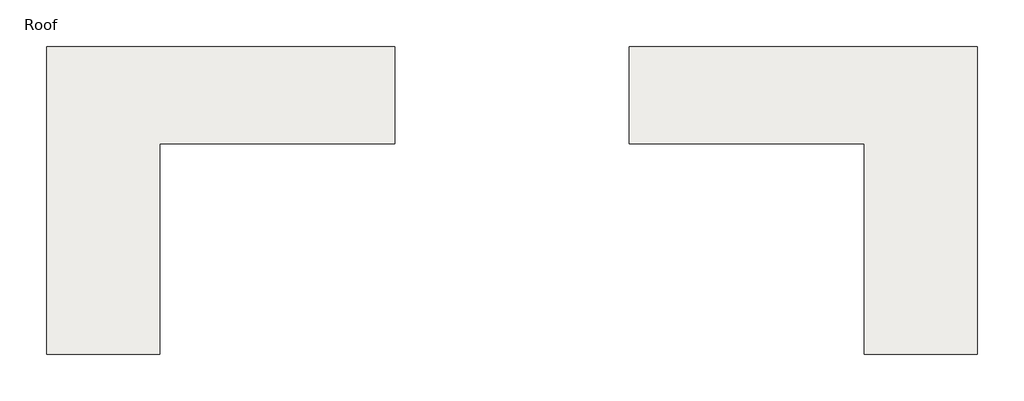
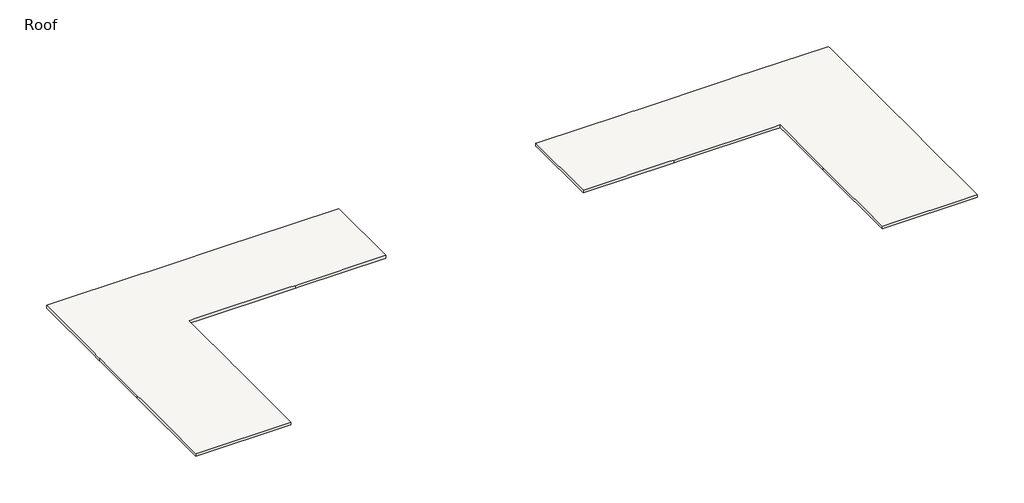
# One storey: 2 slabs.
"""IFC4 building model written with IfcOpenShell, lengths in millimetres."""

from ifc_helpers import new_model, si_unit, origin, place, context, project, spatial, faceted_brep, element, save

model = new_model("IFC4")

# Units and contexts
model_context = context("Model", 3, world=origin())
ifc_project = project(units=[si_unit("LENGTHUNIT", "METRE", prefix="MILLI")], contexts=[model_context])

# Site, building, storey
site = spatial("IfcSite", under=ifc_project)
building = spatial("IfcBuilding", under=site)
storey = spatial("IfcBuildingStorey", under=building, Name="Roof", Elevation=7315.2)

# Slabs
placement = place(None, origin())
element("IfcSlab", 1, ObjectType="3\" LW Concrete on 2\" Metal Deck", at=placement, inside=storey, context=model_context, shape_type="Brep", body=[
    faceted_brep([(-15946.1781752, 17560.5470864, 7188.2), (-15946.1781752, 17712.9470864, 7188.2), (-15946.1781752, 21065.7470864, 7188.2), (-15946.1781752, 21218.1470864, 7188.2), (-15869.9781752, 21218.1470864, 7188.2), (-12059.9781752, 21218.1470864, 7188.2), (-11602.7781752, 21218.1470864, 7188.2), (-11500.8917982, 21218.1470864, 7188.2), (-7487.9781752, 21218.1470864, 7188.2), (-7337.9512179, 21218.1470864, 7188.2), (-7030.7781752, 21218.1470864, 7188.2), (-2915.9781752, 21218.1470864, 7188.2), (-2839.7781752, 21218.1470864, 7188.2), (-2839.7781752, 21065.7470864, 7188.2), (-2839.7781752, 17712.9470864, 7188.2), (-2839.7781752, 17107.3073578, 7188.2), (-2839.7781752, 17103.3470864, 7188.2), (-2839.7781752, 14360.1470864, 7188.2), (-2839.7781752, 14203.6458879, 7188.2), (-2839.7781752, 13750.5470864, 7188.2), (-2839.7781752, 9788.1470864, 7188.2), (-2839.7781752, 9635.7470864, 7188.2), (-2915.9781752, 9635.7470864, 7188.2), (-7030.7781752, 9635.7470864, 7188.2), (-7106.9781752, 9635.7470864, 7188.2), (-7106.9781752, 9788.1470864, 7188.2), (-7106.9781752, 13750.5470864, 7188.2), (-7106.9781752, 14211.6122361, 7188.2), (-7106.9781752, 14360.1470864, 7188.2), (-7106.9781752, 17103.3470864, 7188.2), (-7106.9781752, 17560.5470864, 7188.2), (-7487.9781752, 17560.5470864, 7188.2), (-11602.7781752, 17560.5470864, 7188.2), (-11869.525863, 17560.5470864, 7188.2), (-12059.9781752, 17560.5470864, 7188.2), (-15869.9781752, 17560.5470864, 7188.2), (-15946.1781752, 17560.5470864, 7315.2), (-15869.9781752, 17560.5470864, 7315.2), (-12059.9781752, 17560.5470864, 7315.2), (-11869.525863, 17560.5470864, 7315.2), (-11602.7781752, 17560.5470864, 7315.2), (-7487.9781752, 17560.5470864, 7315.2), (-7106.9781752, 17560.5470864, 7315.2), (-7106.9781752, 17103.3470864, 7315.2), (-7106.9781752, 14360.1470864, 7315.2), (-7106.9781752, 14211.6122361, 7315.2), (-7106.9781752, 13750.5470864, 7315.2), (-7106.9781752, 9788.1470864, 7315.2), (-7106.9781752, 9635.7470864, 7315.2), (-7030.7781752, 9635.7470864, 7315.2), (-2915.9781752, 9635.7470864, 7315.2), (-2839.7781752, 9635.7470864, 7315.2), (-2839.7781752, 9788.1470864, 7315.2), (-2839.7781752, 13750.5470864, 7315.2), (-2839.7781752, 14203.6458879, 7315.2), (-2839.7781752, 14360.1470864, 7315.2), (-2839.7781752, 17103.3470864, 7315.2), (-2839.7781752, 17107.3073578, 7315.2), (-2839.7781752, 17712.9470864, 7315.2), (-2839.7781752, 21065.7470864, 7315.2), (-2839.7781752, 21218.1470864, 7315.2), (-2915.9781752, 21218.1470864, 7315.2), (-7030.7781752, 21218.1470864, 7315.2), (-7337.9512179, 21218.1470864, 7315.2), (-7487.9781752, 21218.1470864, 7315.2), (-11500.8917982, 21218.1470864, 7315.2), (-11602.7781752, 21218.1470864, 7315.2), (-12059.9781752, 21218.1470864, 7315.2), (-15869.9781752, 21218.1470864, 7315.2), (-15946.1781752, 21218.1470864, 7315.2), (-15946.1781752, 21065.7470864, 7315.2), (-15946.1781752, 17712.9470864, 7315.2)], [[[0, 1, 2, 3, 4, 5, 6, 7, 8, 9, 10, 11, 12, 13, 14, 15, 16, 17, 18, 19, 20, 21, 22, 23, 24, 25, 26, 27, 28, 29, 30, 31, 32, 33, 34, 35]], [[36, 37, 38, 39, 40, 41, 42, 43, 44, 45, 46, 47, 48, 49, 50, 51, 52, 53, 54, 55, 56, 57, 58, 59, 60, 61, 62, 63, 64, 65, 66, 67, 68, 69, 70, 71]], [[3, 2, 1, 0, 36, 71, 70, 69]], [[7, 6, 5, 4, 3, 69, 68, 67, 66, 65]], [[9, 8, 7, 65, 64, 63]], [[12, 11, 10, 9, 63, 62, 61, 60]], [[15, 14, 13, 12, 60, 59, 58, 57]], [[18, 17, 16, 15, 57, 56, 55, 54]], [[21, 20, 19, 18, 54, 53, 52, 51]], [[24, 23, 22, 21, 51, 50, 49, 48]], [[27, 26, 25, 24, 48, 47, 46, 45]], [[30, 29, 28, 27, 45, 44, 43, 42]], [[33, 32, 31, 30, 42, 41, 40, 39]], [[0, 35, 34, 33, 39, 38, 37, 36]]]),
])
element("IfcSlab", 2, ObjectType="3\" LW Concrete on 2\" Metal Deck", at=placement, inside=storey, context=model_context, shape_type="Brep", body=[
    faceted_brep([(-24785.3781752, 17560.5470864, 7188.2), (-24861.5781752, 17560.5470864, 7188.2), (-28671.5781752, 17560.5470864, 7188.2), (-28862.0304875, 17560.5470864, 7188.2), (-29128.7781752, 17560.5470864, 7188.2), (-33243.5781752, 17560.5470864, 7188.2), (-33624.5781752, 17560.5470864, 7188.2), (-33624.5781752, 17103.3470864, 7188.2), (-33624.5781752, 14360.1470864, 7188.2), (-33624.5781752, 14211.6122361, 7188.2), (-33624.5781752, 13750.5470864, 7188.2), (-33624.5781752, 9788.1470864, 7188.2), (-33624.5781752, 9635.7470864, 7188.2), (-33700.7781752, 9635.7470864, 7188.2), (-37815.5781752, 9635.7470864, 7188.2), (-37891.7781752, 9635.7470864, 7188.2), (-37891.7781752, 9788.1470864, 7188.2), (-37891.7781752, 13750.5470864, 7188.2), (-37891.7781752, 14203.6458879, 7188.2), (-37891.7781752, 14360.1470864, 7188.2), (-37891.7781752, 17103.3470864, 7188.2), (-37891.7781752, 17107.3073578, 7188.2), (-37891.7781752, 17712.9470864, 7188.2), (-37891.7781752, 21065.7470864, 7188.2), (-37891.7781752, 21218.1470864, 7188.2), (-37815.5781752, 21218.1470864, 7188.2), (-33700.7781752, 21218.1470864, 7188.2), (-33393.6051326, 21218.1470864, 7188.2), (-33243.5781752, 21218.1470864, 7188.2), (-29230.6645523, 21218.1470864, 7188.2), (-29128.7781752, 21218.1470864, 7188.2), (-28671.5781752, 21218.1470864, 7188.2), (-24861.5781752, 21218.1470864, 7188.2), (-24785.3781752, 21218.1470864, 7188.2), (-24785.3781752, 21065.7470864, 7188.2), (-24785.3781752, 17712.9470864, 7188.2), (-24785.3781752, 17560.5470864, 7315.2), (-24785.3781752, 17712.9470864, 7315.2), (-24785.3781752, 21065.7470864, 7315.2), (-24785.3781752, 21218.1470864, 7315.2), (-24861.5781752, 21218.1470864, 7315.2), (-28671.5781752, 21218.1470864, 7315.2), (-29128.7781752, 21218.1470864, 7315.2), (-29230.6645523, 21218.1470864, 7315.2), (-33243.5781752, 21218.1470864, 7315.2), (-33393.6051326, 21218.1470864, 7315.2), (-33700.7781752, 21218.1470864, 7315.2), (-37815.5781752, 21218.1470864, 7315.2), (-37891.7781752, 21218.1470864, 7315.2), (-37891.7781752, 21065.7470864, 7315.2), (-37891.7781752, 17712.9470864, 7315.2), (-37891.7781752, 17107.3073578, 7315.2), (-37891.7781752, 17103.3470864, 7315.2), (-37891.7781752, 14360.1470864, 7315.2), (-37891.7781752, 14203.6458879, 7315.2), (-37891.7781752, 13750.5470864, 7315.2), (-37891.7781752, 9788.1470864, 7315.2), (-37891.7781752, 9635.7470864, 7315.2), (-37815.5781752, 9635.7470864, 7315.2), (-33700.7781752, 9635.7470864, 7315.2), (-33624.5781752, 9635.7470864, 7315.2), (-33624.5781752, 9788.1470864, 7315.2), (-33624.5781752, 13750.5470864, 7315.2), (-33624.5781752, 14211.6122361, 7315.2), (-33624.5781752, 14360.1470864, 7315.2), (-33624.5781752, 17103.3470864, 7315.2), (-33624.5781752, 17560.5470864, 7315.2), (-33243.5781752, 17560.5470864, 7315.2), (-29128.7781752, 17560.5470864, 7315.2), (-28862.0304875, 17560.5470864, 7315.2), (-28671.5781752, 17560.5470864, 7315.2), (-24861.5781752, 17560.5470864, 7315.2)], [[[0, 1, 2, 3, 4, 5, 6, 7, 8, 9, 10, 11, 12, 13, 14, 15, 16, 17, 18, 19, 20, 21, 22, 23, 24, 25, 26, 27, 28, 29, 30, 31, 32, 33, 34, 35]], [[36, 37, 38, 39, 40, 41, 42, 43, 44, 45, 46, 47, 48, 49, 50, 51, 52, 53, 54, 55, 56, 57, 58, 59, 60, 61, 62, 63, 64, 65, 66, 67, 68, 69, 70, 71]], [[0, 35, 34, 33, 39, 38, 37, 36]], [[33, 32, 31, 30, 29, 43, 42, 41, 40, 39]], [[29, 28, 27, 45, 44, 43]], [[27, 26, 25, 24, 48, 47, 46, 45]], [[24, 23, 22, 21, 51, 50, 49, 48]], [[21, 20, 19, 18, 54, 53, 52, 51]], [[18, 17, 16, 15, 57, 56, 55, 54]], [[15, 14, 13, 12, 60, 59, 58, 57]], [[12, 11, 10, 9, 63, 62, 61, 60]], [[9, 8, 7, 6, 66, 65, 64, 63]], [[6, 5, 4, 3, 69, 68, 67, 66]], [[3, 2, 1, 0, 36, 71, 70, 69]]]),
])

save(model, "model.ifc")
